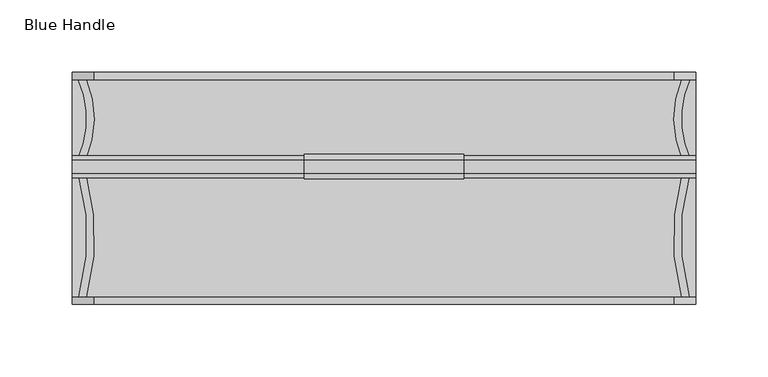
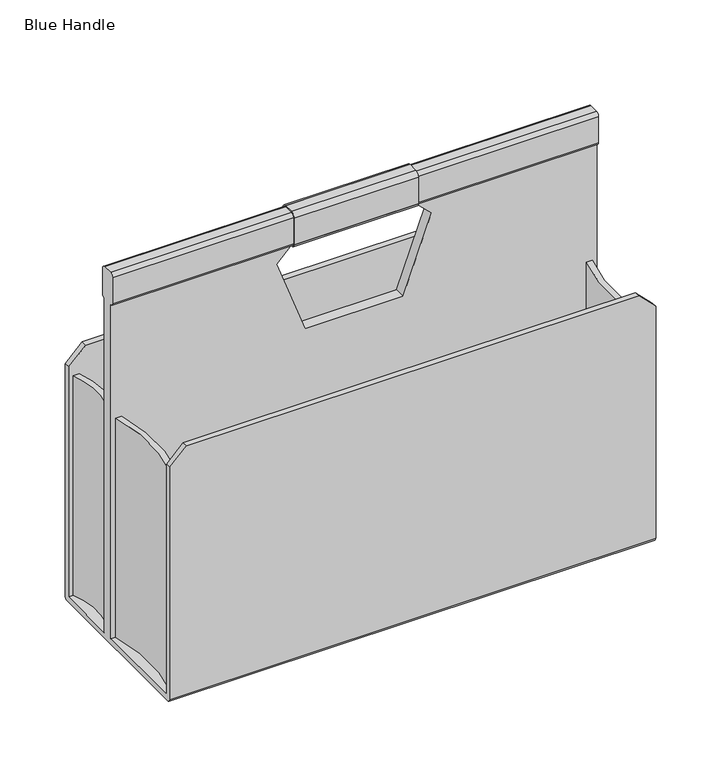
"""IFC4 building model written with IfcOpenShell, lengths in millimetres: furniture geometry, Gobag : Blue Handle."""

from ifc_helpers import new_model, si_unit, point, frame, frame_2d, origin, place, context, project, spatial, polyline, circle_curve, trimmed, segment, composite_curve, outline, extrude, source, transform, mapped, element, save
from ifc_brep_helpers import plane_surface, cylinder_surface, advanced_brep


def blue_handle_9ea79cbd(model_context):
    return source(origin(), model_context, "Body", "SolidModel", [
        extrude(outline(composite_curve([segment(trimmed(circle_curve(frame_2d((-271.6141658, 48.0948832)), 66.4483336), [point((-211.2918675, 20.2273148))], [point((-210.8564854, 75.0))], True, "CARTESIAN"), True, "CONTINUOUS"), segment(polyline([(-210.8564854, 75.0), (-205.3893177, 75.0)]), True, "CONTINUOUS"), segment(trimmed(circle_curve(frame_2d((-271.5578728, 48.082783)), 71.4339853), [point((-205.3893177, 75.0))], [point((-205.7787944, 20.2273148))], False, "CARTESIAN"), True, "CONTINUOUS"), segment(polyline([(-205.7787944, 20.2273148), (-211.2918675, 20.2273148)]), True, "CONTINUOUS")], self_intersect=False)), frame((0.0, 0.0, 5.0), z_axis=(0.0, 0.0, 1.0), x_axis=(1.0, 0.0, 0.0)), (0.0, 0.0, 1.0), 205.0),
        extrude(outline(composite_curve([segment(polyline([(211.2918675, 20.2273148), (205.7787944, 20.2273148)]), True, "CONTINUOUS"), segment(trimmed(circle_curve(frame_2d((271.5578728, 48.082783)), 71.4339853), [point((205.7787944, 20.2273148))], [point((205.3893177, 75.0))], False, "CARTESIAN"), True, "CONTINUOUS"), segment(polyline([(205.3893177, 75.0), (210.8564854, 75.0)]), True, "CONTINUOUS"), segment(trimmed(circle_curve(frame_2d((271.6141658, 48.0948832)), 66.4483336), [point((210.8564854, 75.0))], [point((211.2918675, 20.2273148))], True, "CARTESIAN"), True, "CONTINUOUS")], self_intersect=False)), frame((0.0, 0.0, 5.0), z_axis=(0.0, 0.0, 1.0), x_axis=(1.0, 0.0, 0.0)), (0.0, 0.0, 1.0), 205.0),
        extrude(outline(composite_curve([segment(polyline([(-205.4228838, -75.0436304), (-210.6170973, -75.0436304)]), True, "CONTINUOUS"), segment(trimmed(circle_curve(frame_2d((-362.0293456, -32.9877416)), 157.1444135), [point((-210.6170973, -75.0436304))], [point((-210.8790205, 10.0))], True, "CARTESIAN"), True, "CONTINUOUS"), segment(polyline([(-210.8790205, 10.0), (-205.6743978, 10.0)]), True, "CONTINUOUS"), segment(trimmed(circle_curve(frame_2d((-362.0125081, -32.9845524)), 162.1396821), [point((-205.6743978, 10.0))], [point((-205.4228838, -75.0436304))], False, "CARTESIAN"), True, "CONTINUOUS")], self_intersect=False)), frame((0.0, 0.0, 5.0), z_axis=(0.0, 0.0, 1.0), x_axis=(1.0, 0.0, 0.0)), (0.0, 0.0, 1.0), 205.0),
        extrude(outline(composite_curve([segment(trimmed(circle_curve(frame_2d((362.0072288, -32.9604794)), 162.1281222), [point((205.4181052, -74.9768377))], [point((205.67449, 10.0))], False, "CARTESIAN"), True, "CONTINUOUS"), segment(polyline([(205.67449, 10.0), (210.8791158, 10.0)]), True, "CONTINUOUS"), segment(trimmed(circle_curve(frame_2d((362.0239287, -32.9635632)), 157.132499), [point((210.8791158, 10.0))], [point((210.6122152, -74.9768377))], True, "CARTESIAN"), True, "CONTINUOUS"), segment(polyline([(210.6122152, -74.9768377), (205.4181052, -74.9768377)]), True, "CONTINUOUS")], self_intersect=False)), frame((0.0, 0.0, 5.0), z_axis=(0.0, 0.0, 1.0), x_axis=(1.0, 0.0, 0.0)), (0.0, 0.0, 1.0), 205.0),
        extrude(outline(composite_curve([segment(polyline([(23.5, 344.3567608), (23.5, 319.5857864)]), True, "CONTINUOUS"), segment(trimmed(circle_curve(frame_2d((20.4142136, 319.5857864)), 3.0857864), [point((23.5, 319.5857864))], [point((20.4142136, 316.5))], False, "CARTESIAN"), True, "CONTINUOUS"), segment(polyline([(20.4142136, 316.5), (9.5857864, 316.5)]), True, "CONTINUOUS"), segment(trimmed(circle_curve(frame_2d((9.5857864, 319.5857864)), 3.0857864), [point((9.5857864, 316.5))], [point((6.5, 319.5857864))], False, "CARTESIAN"), True, "CONTINUOUS"), segment(polyline([(6.5, 319.5857864), (6.5, 344.3567608)]), True, "CONTINUOUS"), segment(trimmed(circle_curve(frame_2d((10.5, 344.3567608)), 4.0), [point((6.5, 344.3567608))], [point((10.5, 348.3567608))], False, "CARTESIAN"), True, "CONTINUOUS"), segment(polyline([(10.5, 348.3567608), (19.5, 348.3567608)]), True, "CONTINUOUS"), segment(trimmed(circle_curve(frame_2d((19.5, 344.3567608)), 4.0), [point((19.5, 348.3567608))], [point((23.5, 344.3567608))], False, "CARTESIAN"), True, "CONTINUOUS")], self_intersect=False), holes=[composite_curve([segment(trimmed(circle_curve(frame_2d((19.5, 344.3567608)), 3.0), [point((22.5, 344.3567608))], [point((19.5, 347.3567608))], True, "CARTESIAN"), True, "CONTINUOUS"), segment(polyline([(19.5, 347.3567608), (10.5, 347.3567608)]), True, "CONTINUOUS"), segment(trimmed(circle_curve(frame_2d((10.5, 344.3567608)), 3.0), [point((10.5, 347.3567608))], [point((7.5, 344.3567608))], True, "CARTESIAN"), True, "CONTINUOUS"), segment(polyline([(7.5, 344.3567608), (7.5, 320.0)]), True, "CONTINUOUS"), segment(trimmed(circle_curve(frame_2d((10.0411291, 320.0)), 2.5411291), [point((7.5, 320.0))], [point((9.5857864, 317.5))], True, "CARTESIAN"), True, "CONTINUOUS"), segment(polyline([(9.5857864, 317.5), (20.0, 317.5)]), True, "CONTINUOUS"), segment(trimmed(circle_curve(frame_2d((20.0, 320.0)), 2.5), [point((20.0, 317.5))], [point((22.5, 320.0))], True, "CARTESIAN"), True, "CONTINUOUS"), segment(polyline([(22.5, 320.0), (22.5, 344.3567608)]), True, "CONTINUOUS")], self_intersect=False)]), frame((-55.0, 0.0, 0.0), z_axis=(1.0, 0.0, 0.0), x_axis=(0.0, 1.0, 0.0)), (0.0, 0.0, 1.0), 110.0),
        advanced_brep(
        [(215.0, 75.0, 5.0), (215.0, 20.0, 5.0), (215.0, 20.0, 317.5), (215.0, 22.5, 320.0), (215.0, 22.5, 344.3567608), (215.0, 19.5, 347.3567608), (215.0, 10.5, 347.3567608), (215.0, 7.5, 344.3567608), (215.0, 7.5, 320.0), (215.0, 10.0, 317.5), (215.0, 10.0, 5.0), (215.0, -75.0436304, 5.0), (215.0, -75.0436304, 220.0), (215.0, -80.0, 220.0), (215.0, -80.0, 3.0), (215.0, -77.0, 0.0), (215.0, 77.0, 0.0), (215.0, 80.0, 3.0), (215.0, 80.0, 220.0), (215.0, 75.0, 220.0), (-215.0, 80.0, 3.0), (-215.0, 77.0, 0.0), (-215.0, -77.0, 0.0), (-215.0, -80.0, 3.0), (-215.0, -80.0, 220.0), (-215.0, -75.0436304, 220.0), (-215.0, -75.0436304, 5.0), (-215.0, 10.0, 5.0), (-215.0, 10.0, 317.5), (-215.0, 7.5, 320.0), (-215.0, 7.5, 344.3567608), (-215.0, 10.5, 347.3567608), (-215.0, 19.5, 347.3567608), (-215.0, 22.5, 344.3567608), (-215.0, 22.5, 320.0), (-215.0, 20.0, 317.5), (-215.0, 20.0, 5.0), (-215.0, 75.0, 5.0), (-215.0, 75.0, 220.0), (-215.0, 80.0, 220.0), (-200.0, 80.0, 235.0), (-43.3519821, 80.0, 235.0), (43.3519821, 80.0, 235.0), (200.0, 80.0, 235.0), (-200.0, 75.0, 235.0), (-43.3519821, 75.0, 235.0), (43.3519821, 75.0, 235.0), (200.0, 75.0, 235.0), (-55.0, 20.0, 317.5), (-68.4750202, 20.0, 304.0249798), (-43.3519821, 20.0, 235.0), (43.3519821, 20.0, 235.0), (68.4750202, 20.0, 304.0249798), (55.0, 20.0, 317.5), (55.0, 10.0, 317.5), (68.4750202, 10.0, 304.0249798), (43.3519821, 10.0, 235.0), (-43.3519821, 10.0, 235.0), (-68.4750202, 10.0, 304.0249798), (-55.0, 10.0, 317.5), (-200.0, -75.0436304, 235.0), (-43.3519821, -75.0436304, 235.0), (43.3519821, -75.0436304, 235.0), (200.0, -75.0436304, 235.0), (-200.0, -80.0, 235.0), (-43.3519821, -80.0, 235.0), (43.3519821, -80.0, 235.0), (200.0, -80.0, 235.0)],
        [
            (0, 1),
            (1, 2),
            (2, 3, circle_curve(frame((215.0, 20.0, 320.0), z_axis=(1.0, 0.0, 0.0), x_axis=(0.0, 1.0, 0.0)), 2.5)),
            (3, 4),
            (4, 5, circle_curve(frame((215.0, 19.5, 344.3567608), z_axis=(1.0, 0.0, 0.0), x_axis=(0.0, 1.0, 0.0)), 3.0)),
            (5, 6),
            (6, 7, circle_curve(frame((215.0, 10.5, 344.3567608), z_axis=(1.0, 0.0, 0.0), x_axis=(0.0, 1.0, 0.0)), 3.0)),
            (7, 8),
            (8, 9, circle_curve(frame((215.0, 10.0, 320.0), z_axis=(1.0, 0.0, 0.0), x_axis=(0.0, 1.0, 0.0)), 2.5)),
            (9, 10),
            (10, 11),
            (11, 12),
            (12, 13),
            (13, 14),
            (14, 15, circle_curve(frame((215.0, -77.0, 3.0), z_axis=(1.0, 0.0, 0.0), x_axis=(0.0, 1.0, 0.0)), 3.0)),
            (15, 16),
            (16, 17, circle_curve(frame((215.0, 77.0, 3.0), z_axis=(1.0, 0.0, 0.0), x_axis=(0.0, 1.0, 0.0)), 3.0)),
            (17, 18),
            (18, 19),
            (19, 0),
            (20, 21, circle_curve(frame((-215.0, 77.0, 3.0), z_axis=(-1.0, 0.0, 0.0), x_axis=(0.0, 1.0, 0.0)), 3.0)),
            (21, 22),
            (22, 23, circle_curve(frame((-215.0, -77.0, 3.0), z_axis=(-1.0, 0.0, 0.0), x_axis=(0.0, 1.0, 0.0)), 3.0)),
            (23, 24),
            (24, 25),
            (25, 26),
            (26, 27),
            (27, 28),
            (28, 29, circle_curve(frame((-215.0, 10.0, 320.0), z_axis=(-1.0, 0.0, 0.0), x_axis=(0.0, 1.0, 0.0)), 2.5)),
            (29, 30),
            (30, 31, circle_curve(frame((-215.0, 10.5, 344.3567608), z_axis=(-1.0, 0.0, 0.0), x_axis=(0.0, 1.0, 0.0)), 3.0)),
            (31, 32),
            (32, 33, circle_curve(frame((-215.0, 19.5, 344.3567608), z_axis=(-1.0, 0.0, 0.0), x_axis=(0.0, 1.0, 0.0)), 3.0)),
            (33, 34),
            (34, 35, circle_curve(frame((-215.0, 20.0, 320.0), z_axis=(-1.0, 0.0, 0.0), x_axis=(0.0, 1.0, 0.0)), 2.5)),
            (35, 36),
            (36, 37),
            (37, 38),
            (38, 39),
            (39, 20),
            (17, 20),
            (39, 40),
            (40, 41),
            (41, 42),
            (42, 43),
            (43, 18),
            (40, 44),
            (44, 45),
            (45, 46),
            (46, 47),
            (47, 43),
            (37, 0),
            (19, 47),
            (44, 38),
            (36, 1),
            (35, 48),
            (48, 49),
            (49, 50),
            (50, 51),
            (51, 52),
            (52, 53),
            (53, 2),
            (3, 34),
            (33, 4),
            (5, 32),
            (31, 6),
            (7, 30),
            (29, 8),
            (9, 54),
            (54, 55),
            (55, 56),
            (56, 57),
            (57, 58),
            (58, 59),
            (59, 28),
            (27, 10),
            (26, 11),
            (25, 60),
            (60, 61),
            (61, 62),
            (62, 63),
            (63, 12),
            (60, 64),
            (64, 65),
            (65, 66),
            (66, 67),
            (67, 63),
            (23, 14),
            (13, 67),
            (64, 24),
            (15, 22),
            (21, 16),
            (49, 58),
            (57, 50),
            (56, 51),
            (55, 52),
            (54, 53),
            (54, 59),
            (59, 48),
            (48, 53),
        ],
        [
            plane_surface(frame((215.0, 80.0, 235.0), z_axis=(1.0, 0.0, 0.0), x_axis=(0.0, 0.0, 1.0))),
            plane_surface(frame((-215.0, 80.0, 235.0), z_axis=(-1.0, 0.0, 0.0), x_axis=(0.0, 0.0, -1.0))),
            plane_surface(frame((215.0, 80.0, 3.0), z_axis=(0.0, 1.0, 0.0), x_axis=(-1.0, 0.0, 0.0))),
            plane_surface(frame((215.0, 80.0, 235.0), z_axis=(0.0, 0.0, 1.0), x_axis=(-1.0, 0.0, 0.0))),
            plane_surface(frame((215.0, 75.0, 235.0), z_axis=(0.0, -1.0, 0.0), x_axis=(-1.0, 0.0, 0.0))),
            plane_surface(frame((215.0, 75.0, 5.0), z_axis=(0.0, 0.0, 1.0), x_axis=(-1.0, 0.0, 0.0))),
            plane_surface(frame((215.0, 20.0, 5.0), z_axis=(0.0, 1.0, 0.0), x_axis=(-1.0, 0.0, 0.0))),
            plane_surface(frame((215.0, 22.5, 320.0), z_axis=(0.0, 1.0, 0.0), x_axis=(-1.0, 0.0, 0.0))),
            plane_surface(frame((215.0, 19.5, 347.3567608), z_axis=(0.0, 0.0, 1.0), x_axis=(-1.0, 0.0, 0.0))),
            plane_surface(frame((215.0, 7.5, 344.3567608), z_axis=(0.0, -1.0, 0.0), x_axis=(-1.0, 0.0, 0.0))),
            plane_surface(frame((215.0, 10.0, 317.5), z_axis=(0.0, -1.0, 0.0), x_axis=(-1.0, 0.0, 0.0))),
            plane_surface(frame((215.0, 10.0, 5.0), z_axis=(0.0, 0.0, 1.0), x_axis=(-1.0, 0.0, 0.0))),
            plane_surface(frame((215.0, -75.0436304, 5.0), z_axis=(0.0, 1.0, 0.0), x_axis=(-1.0, 0.0, 0.0))),
            plane_surface(frame((215.0, -75.0436304, 235.0), z_axis=(0.0, 0.0, 1.0), x_axis=(-1.0, 0.0, 0.0))),
            plane_surface(frame((215.0, -80.0, 235.0), z_axis=(0.0, -1.0, 0.0), x_axis=(-1.0, 0.0, 0.0))),
            plane_surface(frame((215.0, -77.0, 0.0), z_axis=(0.0, 0.0, -1.0), x_axis=(-1.0, 0.0, 0.0))),
            plane_surface(frame((-68.4750202, -80.0, 304.0249798), z_axis=(0.9396926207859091, 0.0, 0.3420201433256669), x_axis=(0.0, 1.0, 0.0))),
            plane_surface(frame((-43.3519821, -80.0, 235.0), z_axis=(0.0, 0.0, 1.0), x_axis=(0.0, 1.0, 0.0))),
            plane_surface(frame((43.3519821, -80.0, 235.0), z_axis=(-0.9396926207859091, 0.0, 0.3420201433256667), x_axis=(0.0, 1.0, 0.0))),
            plane_surface(frame((68.4750202, -80.0, 304.0249798), z_axis=(-0.7071067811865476, 0.0, -0.7071067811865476), x_axis=(0.0, 1.0, 0.0))),
            plane_surface(frame((55.0, -80.0, 317.5), z_axis=(0.0, 0.0, -1.0), x_axis=(0.0, 1.0, 0.0))),
            plane_surface(frame((-55.0, -80.0, 317.5), z_axis=(0.7071067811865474, 0.0, -0.7071067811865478), x_axis=(0.0, 1.0, 0.0))),
            cylinder_surface(frame((-215.0, 20.0, 320.0), z_axis=(1.0, 0.0, 0.0), x_axis=(0.0, 1.0, 0.0)), 2.5),
            cylinder_surface(frame((-215.0, 19.5, 344.3567608), z_axis=(1.0, 0.0, 0.0), x_axis=(0.0, 1.0, 0.0)), 3.0),
            cylinder_surface(frame((-215.0, 10.5, 344.3567608), z_axis=(1.0, 0.0, 0.0), x_axis=(0.0, 1.0, 0.0)), 3.0),
            cylinder_surface(frame((-215.0, 10.0, 320.0), z_axis=(1.0, 0.0, 0.0), x_axis=(0.0, 1.0, 0.0)), 2.5),
            cylinder_surface(frame((-215.0, -77.0, 3.0), z_axis=(1.0, 0.0, 0.0), x_axis=(0.0, 1.0, 0.0)), 3.0),
            cylinder_surface(frame((-215.0, 77.0, 3.0), z_axis=(1.0, 0.0, 0.0), x_axis=(0.0, 1.0, 0.0)), 3.0),
            plane_surface(frame((-215.0, -80.0, 220.0), z_axis=(-0.7071067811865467, 0.0, 0.7071067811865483), x_axis=(0.0, 1.0, 0.0))),
            plane_surface(frame((200.0, -80.0, 235.0), z_axis=(0.7071067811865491, 0.0, 0.707106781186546), x_axis=(0.0, 1.0, 0.0))),
            plane_surface(frame((-200.0, 80.0, 235.0), z_axis=(-0.7071067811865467, 0.0, 0.7071067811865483), x_axis=(0.0, -1.0, 0.0))),
            plane_surface(frame((215.0, 80.0, 220.0), z_axis=(0.7071067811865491, 0.0, 0.707106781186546), x_axis=(0.0, -1.0, 0.0))),
        ],
        [
            (0, [[1, 2, 3, 4, 5, 6, 7, 8, 9, 10, 11, 12, 13, 14, 15, 16, 17, 18, 19, 20]]),
            (1, [[21, 22, 23, 24, 25, 26, 27, 28, 29, 30, 31, 32, 33, 34, 35, 36, 37, 38, 39, 40]]),
            (2, [[41, -40, 42, 43, 44, 45, 46, -18]]),
            (3, [[-44, -43, 47, 48, 49, 50, 51, -45]]),
            (4, [[52, -20, 53, -50, -49, -48, 54, -38]]),
            (5, [[-1, -52, -37, 55]]),
            (6, [[-2, -55, -36, 56, 57, 58, 59, 60, 61, 62]]),
            (7, [[-4, 63, -34, 64]]),
            (8, [[-6, 65, -32, 66]]),
            (9, [[-8, 67, -30, 68]]),
            (10, [[-10, 69, 70, 71, 72, 73, 74, 75, -28, 76]]),
            (11, [[-11, -76, -27, 77]]),
            (12, [[-77, -26, 78, 79, 80, 81, 82, -12]]),
            (13, [[-80, -79, 83, 84, 85, 86, 87, -81]]),
            (14, [[88, -14, 89, -86, -85, -84, 90, -24]]),
            (15, [[-16, 91, -22, 92]]),
            (16, [[93, -73, 94, -58]]),
            (17, [[-94, -72, 95, -59]]),
            (18, [[-95, -71, 96, -60]]),
            (19, [[97, -61, -96, -70]]),
            (20, [[-97, 98, 99, 100]]),
            (21, [[-99, -74, -93, -57]]),
            (22, [[-3, -62, -100, -56, -35, -63]]),
            (23, [[-5, -64, -33, -65]]),
            (24, [[-7, -66, -31, -67]]),
            (25, [[-9, -68, -29, -75, -98, -69]]),
            (26, [[-15, -88, -23, -91]]),
            (27, [[-17, -92, -21, -41]]),
            (28, [[-25, -90, -83, -78]]),
            (29, [[-13, -82, -87, -89]]),
            (30, [[-39, -54, -47, -42]]),
            (31, [[-19, -46, -51, -53]]),
        ],
    ),
    ])


if __name__ == "__main__":
    model = new_model("IFC4")
    model_context = context("Model", 3, world=origin())
    ifc_project = project(units=[si_unit("LENGTHUNIT", "METRE", prefix="MILLI")], contexts=[model_context])
    site = spatial("IfcSite", under=ifc_project)
    building = spatial("IfcBuilding", under=site)
    placement = place(None, origin())
    blue_handle_shape = blue_handle_9ea79cbd(model_context)
    element("IfcFurniture", 1, ObjectType="Gobag : Blue Handle", at=placement, inside=building, context=model_context, shape_type="MappedRepresentation", body=[
        mapped(blue_handle_shape, transform((0.0, 0.0, 0.0), x_axis=(1.0, 0.0, 0.0), y_axis=(0.0, 1.0, 0.0), z_axis=(0.0, 0.0, 1.0))),
    ])
    save(model, "model.ifc")
